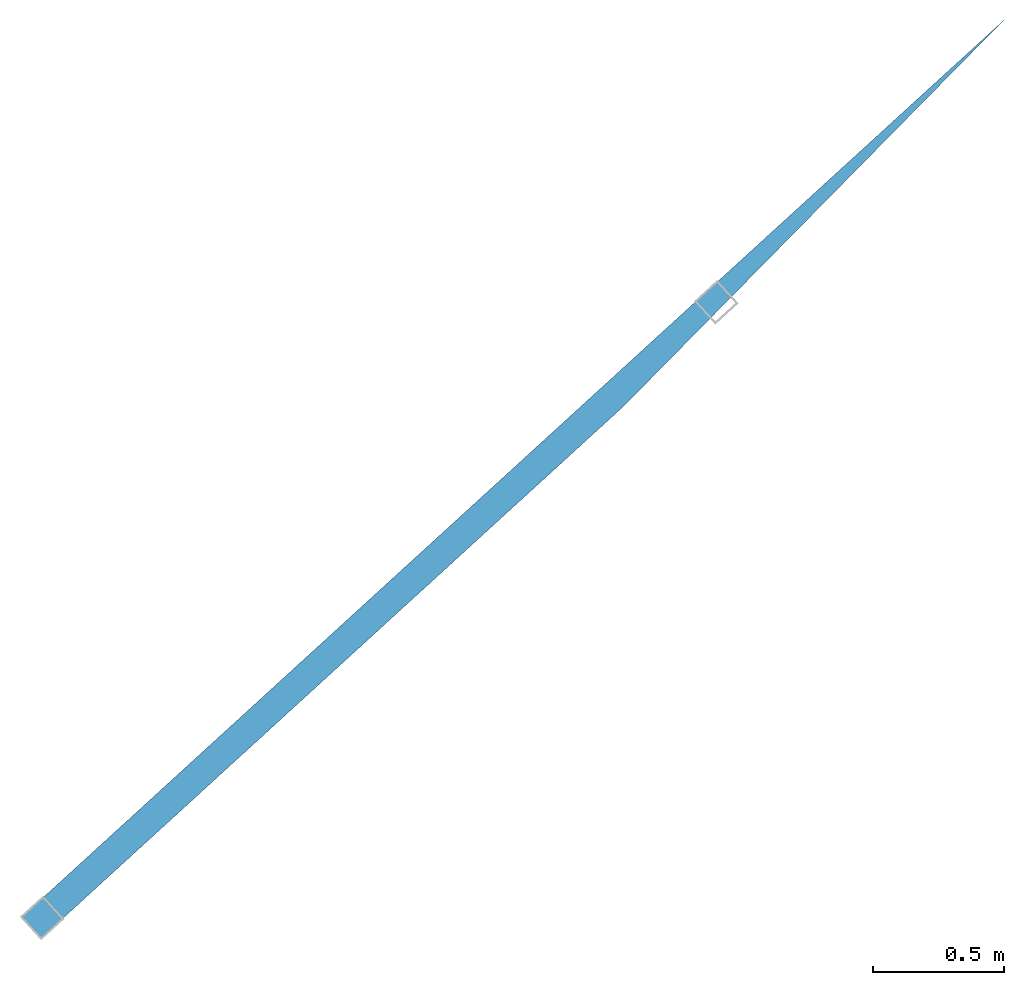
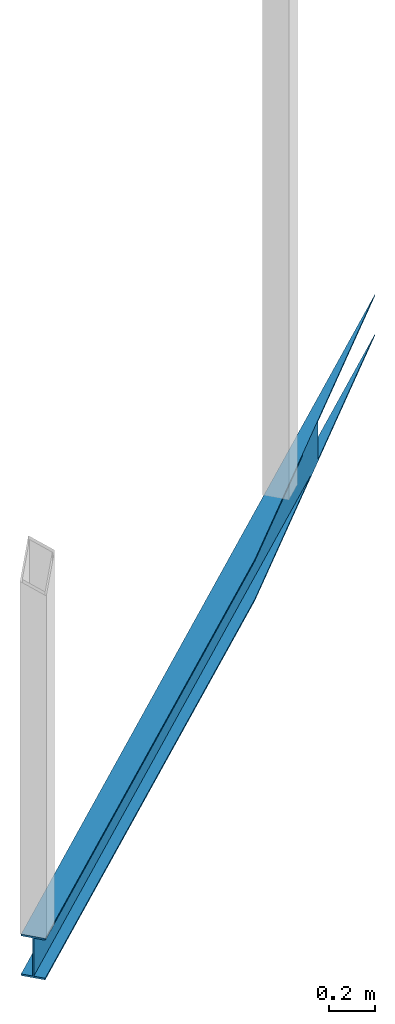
# One storey, part 2 of 2: 1 beam.
"""IFC2X3 building model written with IfcOpenShell, lengths in millimetres."""

from ifc_helpers import new_model, entity, si_unit, converted_unit, derived_unit, direction, frame, origin, origin_with_axes, place, context, subcontext, project, spatial, faceted_brep, type_object, element, save


model = new_model("IFC2X3")

# Units and contexts
model_context = context("Model", 3, precision=0.01, world=origin(), true_north=direction((6.12323399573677e-17, 1.0)))
plan_context = context("Plan", 3, precision=1e-05, world=origin_with_axes())
body_context = subcontext(model_context, "Body", "Model", "MODEL_VIEW")
ifc_project = project(units=[converted_unit("PLANEANGLEUNIT", "DEGREE", entity("IfcPositiveLengthMeasure", 0.0174532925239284), si_unit("PLANEANGLEUNIT", "RADIAN"), dimensions=[0, 0, 0, 0, 0, 0, 0]), si_unit("AREAUNIT", "SQUARE_METRE"), si_unit("LENGTHUNIT", "METRE", prefix="MILLI"), si_unit("MASSUNIT", "GRAM", prefix="KILO"), si_unit("POWERUNIT", "WATT"), si_unit("PRESSUREUNIT", "PASCAL", prefix="KILO"), si_unit("FORCEUNIT", "NEWTON", prefix="KILO"), si_unit("ELECTRICVOLTAGEUNIT", "VOLT"), si_unit("ELECTRICCURRENTUNIT", "AMPERE"), si_unit("THERMODYNAMICTEMPERATUREUNIT", "DEGREE_CELSIUS"), si_unit("TIMEUNIT", "SECOND"), si_unit("VOLUMEUNIT", "CUBIC_METRE"), derived_unit("LINEARVELOCITYUNIT", [(si_unit("LENGTHUNIT", "METRE"), 1), (si_unit("TIMEUNIT", "SECOND"), -1)]), derived_unit("VOLUMETRICFLOWRATEUNIT", [(si_unit("VOLUMEUNIT", "CUBIC_METRE"), 1), (si_unit("TIMEUNIT", "SECOND"), -1)]), derived_unit("THERMALTRANSMITTANCEUNIT", [(si_unit("POWERUNIT", "WATT"), 1), (si_unit("THERMODYNAMICTEMPERATUREUNIT", "KELVIN"), -1), (si_unit("AREAUNIT", "SQUARE_METRE"), -1)]), derived_unit("SOUNDPRESSUREUNIT", [(si_unit("PRESSUREUNIT", "PASCAL"), 1)])], contexts=[model_context, plan_context])

# Site, building, storey
site_placement = place(None, frame((0.0, 0.0, 0.0), z_axis=(0.0, 0.0, 1.0), x_axis=(0.214787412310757, -0.97666082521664, 0.0)))
site = spatial("IfcSite", under=ifc_project, at=site_placement, Name="Default", CompositionType="ELEMENT")
building_placement = place(site_placement, origin_with_axes())
building = spatial("IfcBuilding", under=site, at=building_placement, CompositionType="ELEMENT")
storey_placement = place(building_placement, frame((0.0, 0.0, 9300.0), z_axis=(0.0, 0.0, 1.0), x_axis=(1.0, 0.0, 0.0)))
storey = spatial("IfcBuildingStorey", under=building, at=storey_placement, Name="2. ETASJE", CompositionType="ELEMENT", Elevation=9299.99999999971)

# Beam
beam_type = type_object("IfcBeamType", Name="IPE-Beams:IPE220", PredefinedType="NOTDEFINED")
beam_placement = place(storey_placement, frame((-74427.8728271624, 311751.956241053, -240.0), z_axis=(0.0, 0.0, 1.0), x_axis=(0.50000000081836, -0.866025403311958, 0.0)))
element("IfcBeam", 1, at=beam_placement, inside=storey, type_object=beam_type, Name="IPE-Beams:IPE220", ObjectType="IPE-Beams:IPE220", context=body_context, shape_type="Brep", body=[
    faceted_brep([(22191.6919251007, 55.0000000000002, -219.999999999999), (20120.136983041, -54.9999999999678, -219.999999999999), (25210.0000010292, -54.9999999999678, -219.999999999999), (25210.0000010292, 55.0000000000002, -219.999999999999), (22191.6919251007, 55.0000000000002, -210.799999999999), (25210.0000010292, 55.0000000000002, -210.799999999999), (21211.4697911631, 2.95000000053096, -210.799999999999), (25210.0000010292, 2.95000000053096, -210.799999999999), (21211.4697911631, 2.95000000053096, -9.19999999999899), (25210.0000010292, 2.95000000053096, -9.19999999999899), (22191.6919251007, 55.0000000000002, -9.19999999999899), (25210.0000010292, 55.0000000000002, -9.19999999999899), (22191.6919251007, 55.0000000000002, 1.08002495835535e-12), (25210.0000010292, 55.0000000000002, 1.08002495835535e-12), (20120.136983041, -54.9999999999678, 1.08002495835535e-12), (25210.0000010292, -54.9999999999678, 1.08002495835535e-12), (20120.136983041, -54.9999999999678, -9.19999999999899), (25210.0000010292, -54.9999999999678, -9.19999999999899), (21100.3591169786, -2.95000000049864, -9.19999999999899), (25210.0000010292, -2.95000000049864, -9.19999999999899), (21100.3591169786, -2.95000000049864, -210.799999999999), (25210.0000010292, -2.95000000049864, -210.799999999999), (20120.136983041, -54.9999999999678, -210.799999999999), (25210.0000010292, -54.9999999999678, -210.799999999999)], [[[0, 1, 2, 3]], [[4, 0, 3, 5]], [[6, 4, 5, 7]], [[8, 6, 7, 9]], [[10, 8, 9, 11]], [[12, 10, 11, 13]], [[14, 12, 13, 15]], [[16, 14, 15, 17]], [[18, 16, 17, 19]], [[20, 18, 19, 21]], [[22, 20, 21, 23]], [[1, 22, 23, 2]], [[3, 2, 23, 21, 19, 17, 15, 13, 11, 9, 7, 5]], [[4, 6, 8, 10, 12, 14, 16, 18, 20, 22, 1, 0]]], orient=[[False], [False], [False], [False], [False], [False], [False], [False], [False], [False], [False], [False], [False], [False]]),
])

save(model, "model.ifc")
